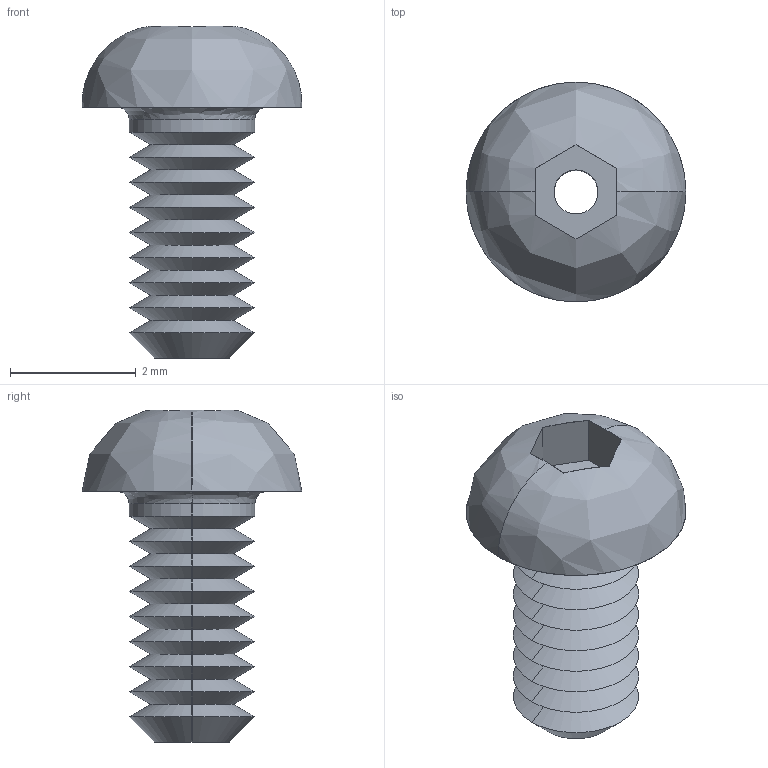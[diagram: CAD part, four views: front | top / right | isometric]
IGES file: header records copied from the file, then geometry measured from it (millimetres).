
Start section: SolidWorks IGES file using analytic representation for surfaces
Global section: file name: C:\Users\liam_\OneDrive\Documents\WORK\Work for WixRoyd\Job Files\J-00019 - Matt Davis CAD Checking\04. CAD Drawings\automotion20190605\P0094_v2\P0094_v2_20190712_IGES\Default.igs; native system: SolidWorks 2017; preprocessor: SolidWorks 2017; author: liam_; date: 190712.174849; units: millimetre
Bounding box: 3.5 x 3.5 x 5.29 mm (x, y, z)
Surface area: 75.7 mm2 (no closed solid volume)
Topology: 0 solids, 0 shells, 51 faces, 338 edges, 338 vertices
Faces by surface type: revolution 38, bspline 13
